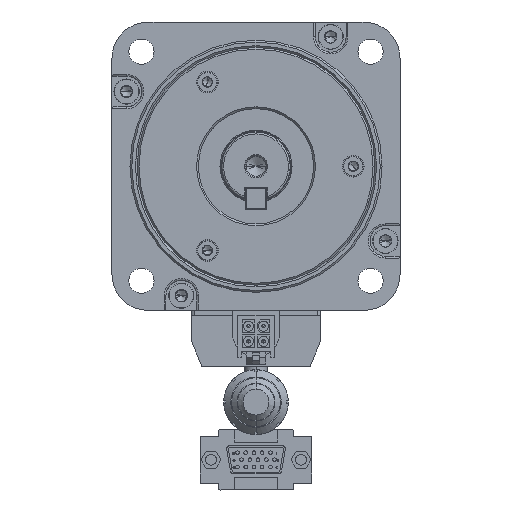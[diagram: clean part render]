
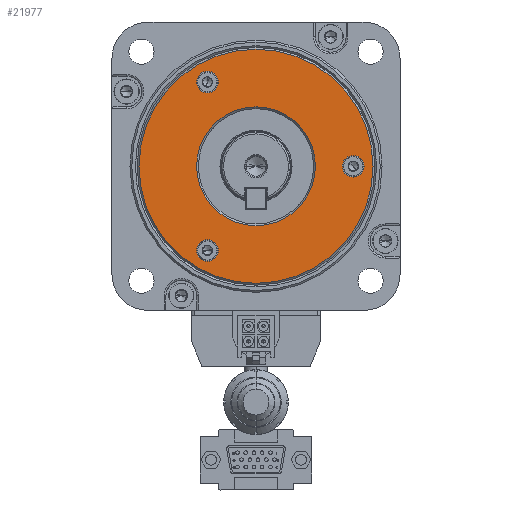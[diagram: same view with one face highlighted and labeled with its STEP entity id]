
A CAD part, front view. The second image highlights one B-rep face of the part: STEP entity #21977.
In plain terms, the highlighted planar face has unit normal (0, -1, 0) as drawn and (0, 0, -1) by its records, which use the part's own axes.
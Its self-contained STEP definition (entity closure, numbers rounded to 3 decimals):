
#21286=CARTESIAN_POINT('',(0.,0.,0.));
#21287=DIRECTION('',(0.,0.,1.));
#21288=DIRECTION('',(-1.,0.,0.));
#21289=AXIS2_PLACEMENT_3D('',#21286,#21287,#21288);
#21291=CARTESIAN_POINT('',(0.,0.,0.));
#21292=DIRECTION('',(0.,0.,1.));
#21293=DIRECTION('',(0.,-1.,0.));
#21294=AXIS2_PLACEMENT_3D('',#21291,#21292,#21293);
#21296=CARTESIAN_POINT('',(0.,0.,
0.));
#21297=DIRECTION('',(0.,0.,1.));
#21298=DIRECTION('',(1.,0.,0.));
#21299=AXIS2_PLACEMENT_3D('',#21296,#21297,#21298);
#21301=CARTESIAN_POINT('',(0.,0.,
0.));
#21302=DIRECTION('',(0.,0.,1.));
#21303=DIRECTION('',(0.,1.,0.));
#21304=AXIS2_PLACEMENT_3D('',#21301,#21302,#21303);
#21306=CARTESIAN_POINT('',(23.383,-13.5,0.));
#21307=DIRECTION('',(0.,0.,-1.));
#21308=DIRECTION('',(-1.,0.,0.));
#21309=AXIS2_PLACEMENT_3D('',#21306,#21307,#21308);
#21311=CARTESIAN_POINT('',(23.383,-13.5,0.));
#21312=DIRECTION('',(0.,0.,-1.));
#21313=DIRECTION('',(1.,0.,0.));
#21314=AXIS2_PLACEMENT_3D('',#21311,#21312,#21313);
#21316=CARTESIAN_POINT('',(-23.383,-13.5,0.));
#21317=DIRECTION('',(0.,0.,-1.));
#21318=DIRECTION('',(-1.,0.,0.));
#21319=AXIS2_PLACEMENT_3D('',#21316,#21317,#21318);
#21321=CARTESIAN_POINT('',(-23.383,-13.5,0.));
#21322=DIRECTION('',(0.,0.,-1.));
#21323=DIRECTION('',(1.,0.,0.));
#21324=AXIS2_PLACEMENT_3D('',#21321,#21322,#21323);
#21326=CARTESIAN_POINT('',(0.,0.,
0.));
#21327=DIRECTION('',(0.,0.,-1.));
#21328=DIRECTION('',(-1.,0.,0.));
#21329=AXIS2_PLACEMENT_3D('',#21326,#21327,#21328);
#21331=CARTESIAN_POINT('',(0.,0.,
0.));
#21332=DIRECTION('',(0.,0.,-1.));
#21333=DIRECTION('',(0.,1.,0.));
#21334=AXIS2_PLACEMENT_3D('',#21331,#21332,#21333);
#21336=CARTESIAN_POINT('',(0.,0.,0.));
#21337=DIRECTION('',(0.,0.,-1.));
#21338=DIRECTION('',(1.,0.,0.));
#21339=AXIS2_PLACEMENT_3D('',#21336,#21337,#21338);
#21341=CARTESIAN_POINT('',(0.,0.,0.));
#21342=DIRECTION('',(0.,0.,-1.));
#21343=DIRECTION('',(0.,-1.,0.));
#21344=AXIS2_PLACEMENT_3D('',#21341,#21342,#21343);
#21346=CARTESIAN_POINT('',(0.,27.,0.));
#21347=DIRECTION('',(0.,0.,-1.));
#21348=DIRECTION('',(-1.,0.,0.));
#21349=AXIS2_PLACEMENT_3D('',#21346,#21347,#21348);
#21351=CARTESIAN_POINT('',(0.,27.,0.));
#21352=DIRECTION('',(0.,0.,-1.));
#21353=DIRECTION('',(1.,0.,0.));
#21354=AXIS2_PLACEMENT_3D('',#21351,#21352,#21353);
#21786=CARTESIAN_POINT('',(0.,-32.5,
0.));
#21787=CARTESIAN_POINT('',(32.5,0.,
0.));
#21788=VERTEX_POINT('',#21786);
#21789=VERTEX_POINT('',#21787);
#21790=CARTESIAN_POINT('',(-32.5,0.,
0.));
#21791=VERTEX_POINT('',#21790);
#21792=CARTESIAN_POINT('',(0.,32.5,
0.));
#21793=VERTEX_POINT('',#21792);
#21794=CARTESIAN_POINT('',(20.383,-13.5,0.));
#21795=CARTESIAN_POINT('',(26.383,-13.5,0.));
#21796=VERTEX_POINT('',#21794);
#21797=VERTEX_POINT('',#21795);
#21798=CARTESIAN_POINT('',(-26.383,-13.5,0.));
#21799=CARTESIAN_POINT('',(-20.383,-13.5,0.));
#21800=VERTEX_POINT('',#21798);
#21801=VERTEX_POINT('',#21799);
#21802=CARTESIAN_POINT('',(0.,16.5,
0.));
#21803=CARTESIAN_POINT('',(16.5,0.,
0.));
#21804=VERTEX_POINT('',#21802);
#21805=VERTEX_POINT('',#21803);
#21806=CARTESIAN_POINT('',(-16.5,0.,
0.));
#21807=VERTEX_POINT('',#21806);
#21808=CARTESIAN_POINT('',(0.,-16.5,0.));
#21809=VERTEX_POINT('',#21808);
#21810=CARTESIAN_POINT('',(-3.,27.,0.));
#21811=CARTESIAN_POINT('',(3.,27.,0.));
#21812=VERTEX_POINT('',#21810);
#21813=VERTEX_POINT('',#21811);
#21934=CARTESIAN_POINT('',(0.,0.,0.));
#21935=DIRECTION('',(0.,0.,1.));
#21936=DIRECTION('',(1.,0.,0.));
#21937=AXIS2_PLACEMENT_3D('',#21934,#21935,#21936);
#21938=PLANE('',#21937);
#21940=ORIENTED_EDGE('',*,*,#21939,.T.);
#21942=ORIENTED_EDGE('',*,*,#21941,.T.);
#21944=ORIENTED_EDGE('',*,*,#21943,.T.);
#21946=ORIENTED_EDGE('',*,*,#21945,.T.);
#21947=EDGE_LOOP('',(#21940,#21942,#21944,#21946));
#21948=FACE_OUTER_BOUND('',#21947,.F.);
#21950=ORIENTED_EDGE('',*,*,#21949,.T.);
#21952=ORIENTED_EDGE('',*,*,#21951,.T.);
#21953=EDGE_LOOP('',(#21950,#21952));
#21954=FACE_BOUND('',#21953,.F.);
#21956=ORIENTED_EDGE('',*,*,#21955,.T.);
#21958=ORIENTED_EDGE('',*,*,#21957,.T.);
#21959=EDGE_LOOP('',(#21956,#21958));
#21960=FACE_BOUND('',#21959,.F.);
#21962=ORIENTED_EDGE('',*,*,#21961,.T.);
#21964=ORIENTED_EDGE('',*,*,#21963,.T.);
#21966=ORIENTED_EDGE('',*,*,#21965,.T.);
#21968=ORIENTED_EDGE('',*,*,#21967,.T.);
#21969=EDGE_LOOP('',(#21962,#21964,#21966,#21968));
#21970=FACE_BOUND('',#21969,.F.);
#21972=ORIENTED_EDGE('',*,*,#21971,.T.);
#21974=ORIENTED_EDGE('',*,*,#21973,.T.);
#21975=EDGE_LOOP('',(#21972,#21974));
#21976=FACE_BOUND('',#21975,.F.);
#21290=CIRCLE('',#21289,32.5);
#21295=CIRCLE('',#21294,32.5);
#21300=CIRCLE('',#21299,32.5);
#21305=CIRCLE('',#21304,32.5);
#21310=CIRCLE('',#21309,3.);
#21315=CIRCLE('',#21314,3.);
#21320=CIRCLE('',#21319,3.);
#21325=CIRCLE('',#21324,3.);
#21330=CIRCLE('',#21329,16.5);
#21335=CIRCLE('',#21334,16.5);
#21340=CIRCLE('',#21339,16.5);
#21345=CIRCLE('',#21344,16.5);
#21350=CIRCLE('',#21349,3.);
#21355=CIRCLE('',#21354,3.);
#21939=EDGE_CURVE('',#21791,#21788,#21290,.T.);
#21941=EDGE_CURVE('',#21788,#21789,#21295,.T.);
#21943=EDGE_CURVE('',#21789,#21793,#21300,.T.);
#21945=EDGE_CURVE('',#21793,#21791,#21305,.T.);
#21949=EDGE_CURVE('',#21796,#21797,#21310,.T.);
#21951=EDGE_CURVE('',#21797,#21796,#21315,.T.);
#21955=EDGE_CURVE('',#21800,#21801,#21320,.T.);
#21957=EDGE_CURVE('',#21801,#21800,#21325,.T.);
#21961=EDGE_CURVE('',#21807,#21804,#21330,.T.);
#21963=EDGE_CURVE('',#21804,#21805,#21335,.T.);
#21965=EDGE_CURVE('',#21805,#21809,#21340,.T.);
#21967=EDGE_CURVE('',#21809,#21807,#21345,.T.);
#21971=EDGE_CURVE('',#21812,#21813,#21350,.T.);
#21973=EDGE_CURVE('',#21813,#21812,#21355,.T.);
#21977=ADVANCED_FACE('',(#21948,#21954,#21960,#21970,#21976),#21938,.F.);
